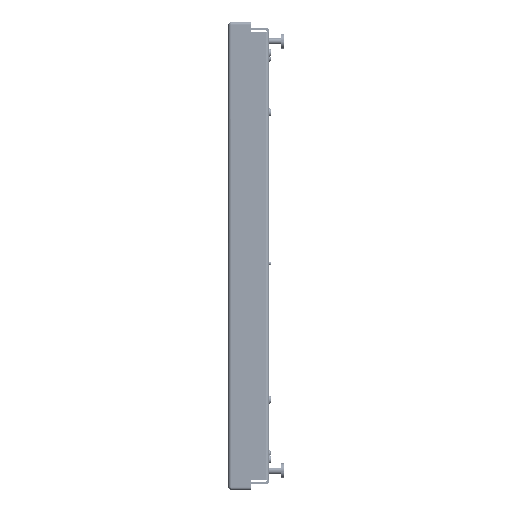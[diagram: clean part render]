
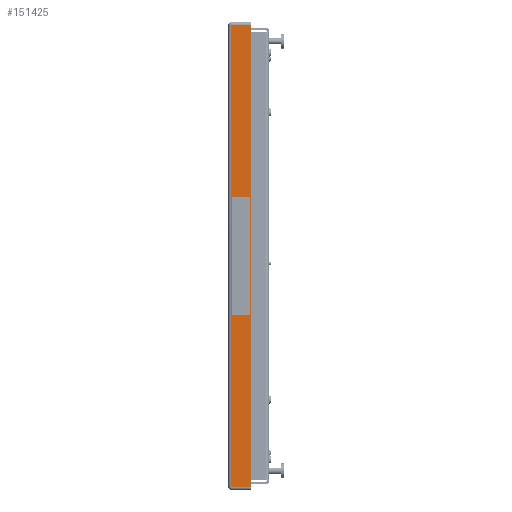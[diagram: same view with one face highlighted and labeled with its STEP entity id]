
A CAD part, left-side view. The second image highlights one B-rep face of the part: STEP entity #151425.
In plain terms, the highlighted planar face has unit normal (-1, 0, 0).
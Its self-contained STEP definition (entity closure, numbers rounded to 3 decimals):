
#799 = EDGE_CURVE ( 'NONE', #245648, #271847, #213274, .T. ) ;
#16339 = FACE_OUTER_BOUND ( 'NONE', #144384, .T. ) ;
#16662 = ORIENTED_EDGE ( 'NONE', *, *, #34107, .F. ) ;
#33311 = CARTESIAN_POINT ( 'NONE',  ( -300., 0., 296.27 ) ) ;
#34107 = EDGE_CURVE ( 'NONE', #112235, #278284, #120759, .T. ) ;
#36889 = LINE ( 'NONE', #273202, #75006 ) ;
#46099 = DIRECTION ( 'NONE',  ( 0., 1., 0. ) ) ;
#53619 = DIRECTION ( 'NONE',  ( 0., 0., -1. ) ) ;
#61880 = CARTESIAN_POINT ( 'NONE',  ( -300., 0.813, -300. ) ) ;
#75006 = VECTOR ( 'NONE', #53619, 1000. ) ;
#85181 = CARTESIAN_POINT ( 'NONE',  ( -300., 0.813, -296.27 ) ) ;
#105177 = ORIENTED_EDGE ( 'NONE', *, *, #118334, .F. ) ;
#112235 = VERTEX_POINT ( 'NONE', #85181 ) ;
#112343 = LINE ( 'NONE', #61880, #216601 ) ;
#114688 = CARTESIAN_POINT ( 'NONE',  ( -300., 26.437, -296.27 ) ) ;
#118334 = EDGE_CURVE ( 'NONE', #245648, #112235, #112343, .T. ) ;
#120759 = LINE ( 'NONE', #263406, #144956 ) ;
#144384 = EDGE_LOOP ( 'NONE', ( #105177, #160830, #268080, #16662 ) ) ;
#144956 = VECTOR ( 'NONE', #218751, 1000. ) ;
#151425 = ADVANCED_FACE ( 'NONE', ( #16339 ), #156826, .F. ) ;
#152063 = CARTESIAN_POINT ( 'NONE',  ( -300., 26.437, 296.27 ) ) ;
#156826 = PLANE ( 'NONE',  #285222 ) ;
#160830 = ORIENTED_EDGE ( 'NONE', *, *, #799, .T. ) ;
#179176 = CARTESIAN_POINT ( 'NONE',  ( -300., 0., 0. ) ) ;
#188726 = DIRECTION ( 'NONE',  ( 0., 1., 0. ) ) ;
#194071 = DIRECTION ( 'NONE',  ( 0., 0., -1. ) ) ;
#203465 = DIRECTION ( 'NONE',  ( 1., 0., 0. ) ) ;
#207290 = EDGE_CURVE ( 'NONE', #271847, #278284, #36889, .T. ) ;
#209716 = CARTESIAN_POINT ( 'NONE',  ( -300., 0.813, 296.27 ) ) ;
#213274 = LINE ( 'NONE', #33311, #282519 ) ;
#216601 = VECTOR ( 'NONE', #194071, 1000. ) ;
#218751 = DIRECTION ( 'NONE',  ( 0., 1., 0. ) ) ;
#245648 = VERTEX_POINT ( 'NONE', #209716 ) ;
#263406 = CARTESIAN_POINT ( 'NONE',  ( -300., 0., -296.27 ) ) ;
#268080 = ORIENTED_EDGE ( 'NONE', *, *, #207290, .T. ) ;
#271847 = VERTEX_POINT ( 'NONE', #152063 ) ;
#273202 = CARTESIAN_POINT ( 'NONE',  ( -300., 26.437, 0. ) ) ;
#278284 = VERTEX_POINT ( 'NONE', #114688 ) ;
#282519 = VECTOR ( 'NONE', #188726, 1000. ) ;
#285222 = AXIS2_PLACEMENT_3D ( 'NONE', #179176, #203465, #46099 ) ;
